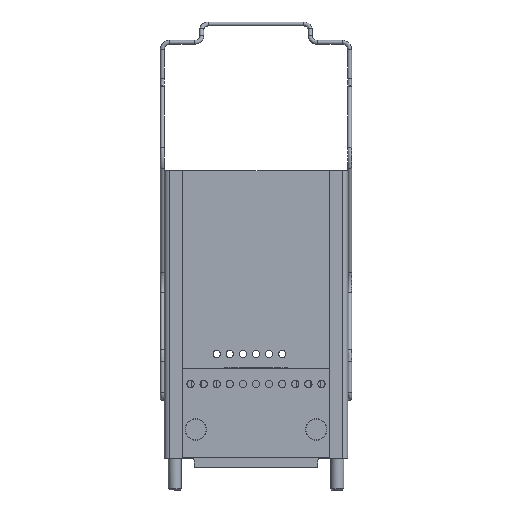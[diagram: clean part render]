
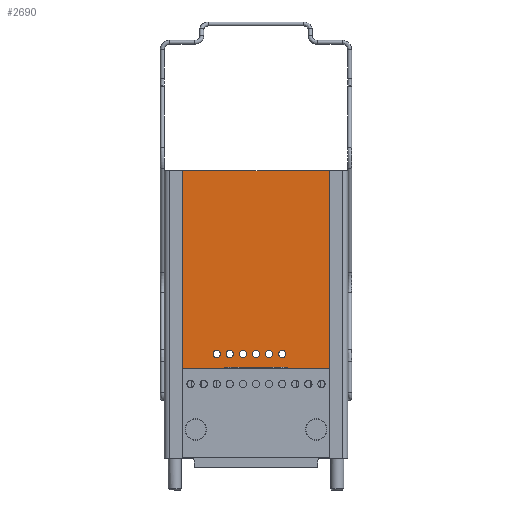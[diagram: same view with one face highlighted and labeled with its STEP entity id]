
A CAD part, front view. The second image highlights one B-rep face of the part: STEP entity #2690.
In plain terms, the highlighted planar face has unit normal (0, -1, 0).
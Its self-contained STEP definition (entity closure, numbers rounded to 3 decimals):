
#166=CARTESIAN_POINT('',(8.863,17.525,-23.15));
#167=VERTEX_POINT('',#166);
#168=CARTESIAN_POINT('',(-8.863,17.525,-23.15));
#169=VERTEX_POINT('',#168);
#170=CARTESIAN_POINT('',(8.863,17.525,-23.15));
#171=DIRECTION('',(-1.0,0.0,0.0));
#172=VECTOR('',#171,17.726);
#173=LINE('',#170,#172);
#174=EDGE_CURVE('',#167,#169,#173,.T.);
#322=CARTESIAN_POINT('',(8.863,17.525,-20.15));
#323=VERTEX_POINT('',#322);
#364=CARTESIAN_POINT('',(-8.863,17.525,-20.15));
#365=VERTEX_POINT('',#364);
#396=CARTESIAN_POINT('',(-8.863,17.525,-20.15));
#397=DIRECTION('',(1.0,0.0,0.0));
#398=VECTOR('',#397,17.726);
#399=LINE('',#396,#398);
#400=EDGE_CURVE('',#365,#323,#399,.T.);
#423=CARTESIAN_POINT('',(-12.18,17.525,-20.15));
#424=VERTEX_POINT('',#423);
#425=CARTESIAN_POINT('',(-12.18,17.525,-20.15));
#426=DIRECTION('',(1.0,0.0,0.0));
#427=VECTOR('',#426,3.317);
#428=LINE('',#425,#427);
#429=EDGE_CURVE('',#424,#365,#428,.T.);
#466=CARTESIAN_POINT('',(12.18,17.525,-20.15));
#467=VERTEX_POINT('',#466);
#475=CARTESIAN_POINT('',(8.863,17.525,-20.15));
#476=DIRECTION('',(1.0,0.0,0.0));
#477=VECTOR('',#476,3.317);
#478=LINE('',#475,#477);
#479=EDGE_CURVE('',#323,#467,#478,.T.);
#704=CARTESIAN_POINT('',(12.18,17.525,-23.15));
#705=VERTEX_POINT('',#704);
#713=CARTESIAN_POINT('',(12.18,17.525,-23.15));
#714=DIRECTION('',(0.0,0.0,1.0));
#715=VECTOR('',#714,3.);
#716=LINE('',#713,#715);
#717=EDGE_CURVE('',#705,#467,#716,.T.);
#729=CARTESIAN_POINT('',(-12.18,17.525,-23.15));
#730=VERTEX_POINT('',#729);
#740=CARTESIAN_POINT('',(-12.18,17.525,-23.15));
#741=DIRECTION('',(0.0,0.0,1.0));
#742=VECTOR('',#741,3.);
#743=LINE('',#740,#742);
#744=EDGE_CURVE('',#730,#424,#743,.T.);
#755=CARTESIAN_POINT('',(12.18,17.525,-23.15));
#756=DIRECTION('',(-1.0,0.0,0.0));
#757=VECTOR('',#756,3.317);
#758=LINE('',#755,#757);
#759=EDGE_CURVE('',#705,#167,#758,.T.);
#766=CARTESIAN_POINT('',(-8.863,17.525,-23.15));
#767=DIRECTION('',(-1.0,0.0,0.0));
#768=VECTOR('',#767,3.317);
#769=LINE('',#766,#768);
#770=EDGE_CURVE('',#169,#730,#769,.T.);
#805=CARTESIAN_POINT('',(-16.4,17.525,-15.0));
#806=VERTEX_POINT('',#805);
#807=CARTESIAN_POINT('',(-15.,17.525,-15.0));
#808=DIRECTION('',(0.0,1.0,0.0));
#809=DIRECTION('',(1.0,0.0,0.0));
#810=AXIS2_PLACEMENT_3D('',#807,#808,#809);
#811=CIRCLE('',#810,1.4);
#812=EDGE_CURVE('',#806,#806,#811,.T.);
#846=CARTESIAN_POINT('',(-11.4,17.525,-15.0));
#847=VERTEX_POINT('',#846);
#848=CARTESIAN_POINT('',(-10.,17.525,-15.0));
#849=DIRECTION('',(0.0,1.0,0.0));
#850=DIRECTION('',(1.0,0.0,0.0));
#851=AXIS2_PLACEMENT_3D('',#848,#849,#850);
#852=CIRCLE('',#851,1.4);
#853=EDGE_CURVE('',#847,#847,#852,.T.);
#887=CARTESIAN_POINT('',(-6.4,17.525,-15.0));
#888=VERTEX_POINT('',#887);
#889=CARTESIAN_POINT('',(-5.,17.525,-15.0));
#890=DIRECTION('',(0.0,1.0,0.0));
#891=DIRECTION('',(1.0,0.0,0.0));
#892=AXIS2_PLACEMENT_3D('',#889,#890,#891);
#893=CIRCLE('',#892,1.4);
#894=EDGE_CURVE('',#888,#888,#893,.T.);
#928=CARTESIAN_POINT('',(-1.4,17.525,-15.0));
#929=VERTEX_POINT('',#928);
#930=CARTESIAN_POINT('',(0.,17.525,-15.0));
#931=DIRECTION('',(0.0,1.0,0.0));
#932=DIRECTION('',(1.0,0.0,0.0));
#933=AXIS2_PLACEMENT_3D('',#930,#931,#932);
#934=CIRCLE('',#933,1.4);
#935=EDGE_CURVE('',#929,#929,#934,.T.);
#969=CARTESIAN_POINT('',(3.6,17.525,-15.0));
#970=VERTEX_POINT('',#969);
#971=CARTESIAN_POINT('',(5.,17.525,-15.0));
#972=DIRECTION('',(0.0,1.0,0.0));
#973=DIRECTION('',(1.0,0.0,0.0));
#974=AXIS2_PLACEMENT_3D('',#971,#972,#973);
#975=CIRCLE('',#974,1.4);
#976=EDGE_CURVE('',#970,#970,#975,.T.);
#1010=CARTESIAN_POINT('',(8.6,17.525,-15.0));
#1011=VERTEX_POINT('',#1010);
#1012=CARTESIAN_POINT('',(10.,17.525,-15.0));
#1013=DIRECTION('',(0.0,1.0,0.0));
#1014=DIRECTION('',(1.0,0.0,0.0));
#1015=AXIS2_PLACEMENT_3D('',#1012,#1013,#1014);
#1016=CIRCLE('',#1015,1.4);
#1017=EDGE_CURVE('',#1011,#1011,#1016,.T.);
#1051=CARTESIAN_POINT('',(-24.15,17.525,-29.));
#1052=VERTEX_POINT('',#1051);
#1053=CARTESIAN_POINT('',(-23.0,17.525,-29.));
#1054=DIRECTION('',(0.0,1.0,0.0));
#1055=DIRECTION('',(1.0,0.0,0.0));
#1056=AXIS2_PLACEMENT_3D('',#1053,#1054,#1055);
#1057=CIRCLE('',#1056,1.15);
#1058=EDGE_CURVE('',#1052,#1052,#1057,.T.);
#1092=CARTESIAN_POINT('',(21.85,17.525,-29.));
#1093=VERTEX_POINT('',#1092);
#1094=CARTESIAN_POINT('',(23.,17.525,-29.));
#1095=DIRECTION('',(0.0,1.0,0.0));
#1096=DIRECTION('',(1.0,0.0,0.0));
#1097=AXIS2_PLACEMENT_3D('',#1094,#1095,#1096);
#1098=CIRCLE('',#1097,1.15);
#1099=EDGE_CURVE('',#1093,#1093,#1098,.T.);
#2598=CARTESIAN_POINT('',(33.,17.525,55.));
#2599=VERTEX_POINT('',#2598);
#2607=CARTESIAN_POINT('',(33.,17.525,-55.));
#2608=VERTEX_POINT('',#2607);
#2609=CARTESIAN_POINT('',(33.,17.525,-55.));
#2610=DIRECTION('',(0.0,0.0,1.0));
#2611=VECTOR('',#2610,110.0);
#2612=LINE('',#2609,#2611);
#2613=EDGE_CURVE('',#2608,#2599,#2612,.T.);
#2626=CARTESIAN_POINT('',(33.,17.525,-55.));
#2627=DIRECTION('',(0.0,-1.0,0.0));
#2628=DIRECTION('',(0.0,0.0,-1.0));
#2629=AXIS2_PLACEMENT_3D('',#2626,#2627,#2628);
#2630=PLANE('',#2629);
#2631=CARTESIAN_POINT('',(-33.,17.525,55.));
#2632=VERTEX_POINT('',#2631);
#2633=CARTESIAN_POINT('',(33.,17.525,55.));
#2634=DIRECTION('',(-1.0,0.0,0.0));
#2635=VECTOR('',#2634,66.);
#2636=LINE('',#2633,#2635);
#2637=EDGE_CURVE('',#2599,#2632,#2636,.T.);
#2638=ORIENTED_EDGE('',*,*,#2637,.T.);
#2639=CARTESIAN_POINT('',(-33.,17.525,-55.));
#2640=VERTEX_POINT('',#2639);
#2641=CARTESIAN_POINT('',(-33.,17.525,-55.));
#2642=DIRECTION('',(0.0,0.0,1.0));
#2643=VECTOR('',#2642,110.0);
#2644=LINE('',#2641,#2643);
#2645=EDGE_CURVE('',#2640,#2632,#2644,.T.);
#2646=ORIENTED_EDGE('',*,*,#2645,.F.);
#2647=CARTESIAN_POINT('',(-33.,17.525,-55.));
#2648=DIRECTION('',(1.0,0.0,0.0));
#2649=VECTOR('',#2648,66.);
#2650=LINE('',#2647,#2649);
#2651=EDGE_CURVE('',#2640,#2608,#2650,.T.);
#2652=ORIENTED_EDGE('',*,*,#2651,.T.);
#2653=ORIENTED_EDGE('',*,*,#2613,.T.);
#2654=EDGE_LOOP('',(#2638,#2646,#2652,#2653));
#2655=FACE_OUTER_BOUND('',#2654,.T.);
#2656=ORIENTED_EDGE('',*,*,#744,.T.);
#2657=ORIENTED_EDGE('',*,*,#429,.T.);
#2658=ORIENTED_EDGE('',*,*,#400,.T.);
#2659=ORIENTED_EDGE('',*,*,#479,.T.);
#2660=ORIENTED_EDGE('',*,*,#717,.F.);
#2661=ORIENTED_EDGE('',*,*,#759,.T.);
#2662=ORIENTED_EDGE('',*,*,#174,.T.);
#2663=ORIENTED_EDGE('',*,*,#770,.T.);
#2664=EDGE_LOOP('',(#2656,#2657,#2658,#2659,#2660,#2661,#2662,#2663));
#2665=FACE_BOUND('',#2664,.T.);
#2666=ORIENTED_EDGE('',*,*,#812,.T.);
#2667=EDGE_LOOP('',(#2666));
#2668=FACE_BOUND('',#2667,.T.);
#2669=ORIENTED_EDGE('',*,*,#853,.T.);
#2670=EDGE_LOOP('',(#2669));
#2671=FACE_BOUND('',#2670,.T.);
#2672=ORIENTED_EDGE('',*,*,#894,.T.);
#2673=EDGE_LOOP('',(#2672));
#2674=FACE_BOUND('',#2673,.T.);
#2675=ORIENTED_EDGE('',*,*,#935,.T.);
#2676=EDGE_LOOP('',(#2675));
#2677=FACE_BOUND('',#2676,.T.);
#2678=ORIENTED_EDGE('',*,*,#976,.T.);
#2679=EDGE_LOOP('',(#2678));
#2680=FACE_BOUND('',#2679,.T.);
#2681=ORIENTED_EDGE('',*,*,#1017,.T.);
#2682=EDGE_LOOP('',(#2681));
#2683=FACE_BOUND('',#2682,.T.);
#2684=ORIENTED_EDGE('',*,*,#1058,.T.);
#2685=EDGE_LOOP('',(#2684));
#2686=FACE_BOUND('',#2685,.T.);
#2687=ORIENTED_EDGE('',*,*,#1099,.T.);
#2688=EDGE_LOOP('',(#2687));
#2689=FACE_BOUND('',#2688,.T.);
#2690=ADVANCED_FACE('',(#2655,#2665,#2668,#2671,#2674,#2677,#2680,#2683,#2686,#2689),#2630,.T.);
